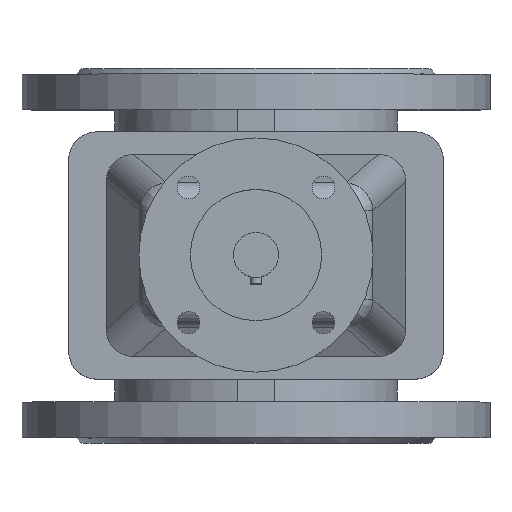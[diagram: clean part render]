
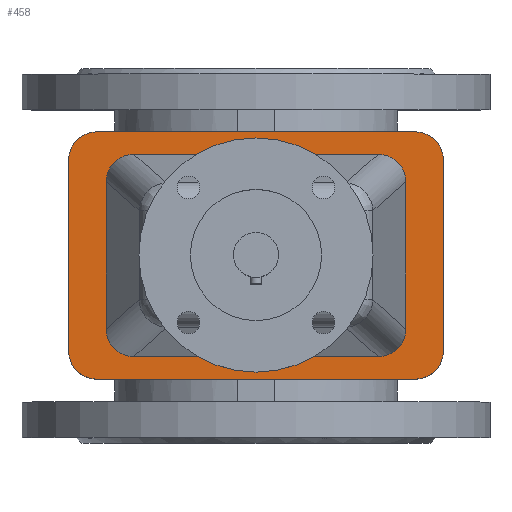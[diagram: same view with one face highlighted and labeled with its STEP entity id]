
A CAD part, top view. The second image highlights one B-rep face of the part: STEP entity #458.
In plain terms, the highlighted planar face has unit normal (0, 0, 1).
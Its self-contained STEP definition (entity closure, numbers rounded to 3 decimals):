
#458=ADVANCED_FACE('',(#1508,#1510),#1512,.T.);
#1508=FACE_BOUND('',#1509,.T.);
#1509=EDGE_LOOP('',(#2867,#2868,#2869,#2870,#2871,#2872,#2873,#2874));
#1510=FACE_BOUND('',#1511,.T.);
#1511=EDGE_LOOP('',(#2875,#2876,#2877,#2878,#2879,#2880,#2881,#2882));
#1512=PLANE('',#1513);
#1513=AXIS2_PLACEMENT_3D('',#1514,#1515,#1516);
#1514=CARTESIAN_POINT('',(0.,0.,160.));
#1515=DIRECTION('',(0.,-0.,1.));
#1516=DIRECTION('',(0.,1.,0.));
#2867=ORIENTED_EDGE('',*,*,#3406,.F.);
#2868=ORIENTED_EDGE('',*,*,#3351,.T.);
#2869=ORIENTED_EDGE('',*,*,#3349,.F.);
#2870=ORIENTED_EDGE('',*,*,#3347,.T.);
#2871=ORIENTED_EDGE('',*,*,#3345,.F.);
#2872=ORIENTED_EDGE('',*,*,#3342,.T.);
#2873=ORIENTED_EDGE('',*,*,#3405,.F.);
#2874=ORIENTED_EDGE('',*,*,#3407,.T.);
#2875=ORIENTED_EDGE('',*,*,#3408,.F.);
#2876=ORIENTED_EDGE('',*,*,#3409,.F.);
#2877=ORIENTED_EDGE('',*,*,#3410,.F.);
#2878=ORIENTED_EDGE('',*,*,#3411,.F.);
#2879=ORIENTED_EDGE('',*,*,#3412,.F.);
#2880=ORIENTED_EDGE('',*,*,#3413,.F.);
#2881=ORIENTED_EDGE('',*,*,#3414,.F.);
#2882=ORIENTED_EDGE('',*,*,#3415,.F.);
#3342=EDGE_CURVE('',#3727,#3725,#3728,.T.);
#3345=EDGE_CURVE('',#3727,#3730,#3732,.F.);
#3347=EDGE_CURVE('',#3733,#3730,#3735,.T.);
#3349=EDGE_CURVE('',#3733,#3736,#3738,.F.);
#3351=EDGE_CURVE('',#3741,#3736,#3742,.T.);
#3405=EDGE_CURVE('',#3834,#3725,#3836,.F.);
#3406=EDGE_CURVE('',#3741,#3837,#3838,.F.);
#3407=EDGE_CURVE('',#3834,#3837,#3839,.T.);
#3408=EDGE_CURVE('',#3840,#3841,#3842,.T.);
#3409=EDGE_CURVE('',#3843,#3840,#3844,.T.);
#3410=EDGE_CURVE('',#3845,#3843,#3846,.F.);
#3411=EDGE_CURVE('',#3847,#3845,#3848,.T.);
#3412=EDGE_CURVE('',#3849,#3847,#3850,.T.);
#3413=EDGE_CURVE('',#3851,#3849,#3852,.T.);
#3414=EDGE_CURVE('',#3853,#3851,#3854,.F.);
#3415=EDGE_CURVE('',#3841,#3853,#3855,.T.);
#3725=VERTEX_POINT('',#4469);
#3727=VERTEX_POINT('',#4473);
#3728=LINE('',#4474,#4475);
#3730=VERTEX_POINT('',#4480);
#3732=CIRCLE('',#4484,15.);
#3733=VERTEX_POINT('',#4488);
#3735=LINE('',#4492,#4493);
#3736=VERTEX_POINT('',#4495);
#3738=CIRCLE('',#4499,15.);
#3741=VERTEX_POINT('',#4507);
#3742=LINE('',#4508,#4509);
#3834=VERTEX_POINT('',#4731);
#3836=CIRCLE('',#4735,15.);
#3837=VERTEX_POINT('',#4739);
#3838=CIRCLE('',#4740,15.);
#3839=LINE('',#4744,#4745);
#3840=VERTEX_POINT('',#4747);
#3841=VERTEX_POINT('',#4748);
#3842=(BOUNDED_CURVE()B_SPLINE_CURVE(3,
(#4749,#4750,#4751,#4752),
.UNSPECIFIED.,.F.,.F.)B_SPLINE_CURVE_WITH_KNOTS((4,4),
(0.,1.),
.UNSPECIFIED.)CURVE()GEOMETRIC_REPRESENTATION_ITEM()RATIONAL_B_SPLINE_CURVE((1.,
0.813,0.813,1.))REPRESENTATION_ITEM(''));
#3843=VERTEX_POINT('',#4753);
#3844=LINE('',#4754,#4755);
#3845=VERTEX_POINT('',#4757);
#3846=(BOUNDED_CURVE()B_SPLINE_CURVE(3,
(#4758,#4759,#4760,#4761),
.UNSPECIFIED.,.F.,.F.)B_SPLINE_CURVE_WITH_KNOTS((4,4),
(0.,1.),
.UNSPECIFIED.)CURVE()GEOMETRIC_REPRESENTATION_ITEM()RATIONAL_B_SPLINE_CURVE((1.,
0.813,0.813,1.))REPRESENTATION_ITEM(''));
#3847=VERTEX_POINT('',#4762);
#3848=LINE('',#4763,#4764);
#3849=VERTEX_POINT('',#4766);
#3850=(BOUNDED_CURVE()B_SPLINE_CURVE(3,
(#4767,#4768,#4769,#4770),
.UNSPECIFIED.,.F.,.F.)B_SPLINE_CURVE_WITH_KNOTS((4,4),
(0.,1.),
.UNSPECIFIED.)CURVE()GEOMETRIC_REPRESENTATION_ITEM()RATIONAL_B_SPLINE_CURVE((1.,
0.813,0.813,1.))REPRESENTATION_ITEM(''));
#3851=VERTEX_POINT('',#4771);
#3852=LINE('',#4772,#4773);
#3853=VERTEX_POINT('',#4775);
#3854=(BOUNDED_CURVE()B_SPLINE_CURVE(3,
(#4776,#4777,#4778,#4779),
.UNSPECIFIED.,.F.,.F.)B_SPLINE_CURVE_WITH_KNOTS((4,4),
(0.,1.),
.UNSPECIFIED.)CURVE()GEOMETRIC_REPRESENTATION_ITEM()RATIONAL_B_SPLINE_CURVE((1.,
0.813,0.813,1.))REPRESENTATION_ITEM(''));
#3855=LINE('',#4780,#4781);
#4469=CARTESIAN_POINT('',(-85.,66.,160.));
#4473=CARTESIAN_POINT('',(85.,66.,160.));
#4474=CARTESIAN_POINT('',(85.,66.,160.));
#4475=VECTOR('',#4476,1.);
#4476=DIRECTION('',(-1.,0.,0.));
#4480=CARTESIAN_POINT('',(100.,51.,160.));
#4484=AXIS2_PLACEMENT_3D('',#4485,#4486,#4487);
#4485=CARTESIAN_POINT('',(85.,51.,160.));
#4486=DIRECTION('',(0.,-0.,1.));
#4487=DIRECTION('',(1.,0.,0.));
#4488=CARTESIAN_POINT('',(100.,-51.,160.));
#4492=CARTESIAN_POINT('',(100.,-51.,160.));
#4493=VECTOR('',#4494,1.);
#4494=DIRECTION('',(0.,1.,0.));
#4495=CARTESIAN_POINT('',(85.,-66.,160.));
#4499=AXIS2_PLACEMENT_3D('',#4500,#4501,#4502);
#4500=CARTESIAN_POINT('',(85.,-51.,160.));
#4501=DIRECTION('',(0.,-0.,1.));
#4502=DIRECTION('',(0.,-1.,0.));
#4507=CARTESIAN_POINT('',(-85.,-66.,160.));
#4508=CARTESIAN_POINT('',(-85.,-66.,160.));
#4509=VECTOR('',#4510,1.);
#4510=DIRECTION('',(1.,0.,0.));
#4731=CARTESIAN_POINT('',(-100.,51.,160.));
#4735=AXIS2_PLACEMENT_3D('',#4736,#4737,#4738);
#4736=CARTESIAN_POINT('',(-85.,51.,160.));
#4737=DIRECTION('',(0.,-0.,1.));
#4738=DIRECTION('',(0.,1.,0.));
#4739=CARTESIAN_POINT('',(-100.,-51.,160.));
#4740=AXIS2_PLACEMENT_3D('',#4741,#4742,#4743);
#4741=CARTESIAN_POINT('',(-85.,-51.,160.));
#4742=DIRECTION('',(0.,-0.,1.));
#4743=DIRECTION('',(-1.,0.,0.));
#4744=CARTESIAN_POINT('',(-100.,51.,160.));
#4745=VECTOR('',#4746,1.);
#4746=DIRECTION('',(0.,-1.,0.));
#4747=CARTESIAN_POINT('',(-65.224,54.,160.));
#4748=CARTESIAN_POINT('',(-80.,39.287,160.));
#4749=CARTESIAN_POINT('',(-65.224,54.,160.));
#4750=CARTESIAN_POINT('',(-73.939,54.,160.));
#4751=CARTESIAN_POINT('',(-80.,47.965,160.));
#4752=CARTESIAN_POINT('',(-80.,39.287,160.));
#4753=CARTESIAN_POINT('',(65.224,54.,160.));
#4754=CARTESIAN_POINT('',(65.224,54.,160.));
#4755=VECTOR('',#4756,1.);
#4756=DIRECTION('',(-1.,0.,0.));
#4757=CARTESIAN_POINT('',(80.,39.287,160.));
#4758=CARTESIAN_POINT('',(65.224,54.,160.));
#4759=CARTESIAN_POINT('',(73.939,54.,160.));
#4760=CARTESIAN_POINT('',(80.,47.965,160.));
#4761=CARTESIAN_POINT('',(80.,39.287,160.));
#4762=CARTESIAN_POINT('',(80.,-39.287,160.));
#4763=CARTESIAN_POINT('',(80.,-39.287,160.));
#4764=VECTOR('',#4765,1.);
#4765=DIRECTION('',(0.,1.,0.));
#4766=CARTESIAN_POINT('',(65.224,-54.,160.));
#4767=CARTESIAN_POINT('',(65.224,-54.,160.));
#4768=CARTESIAN_POINT('',(73.939,-54.,160.));
#4769=CARTESIAN_POINT('',(80.,-47.965,160.));
#4770=CARTESIAN_POINT('',(80.,-39.287,160.));
#4771=CARTESIAN_POINT('',(-65.224,-54.,160.));
#4772=CARTESIAN_POINT('',(-65.224,-54.,160.));
#4773=VECTOR('',#4774,1.);
#4774=DIRECTION('',(1.,0.,0.));
#4775=CARTESIAN_POINT('',(-80.,-39.287,160.));
#4776=CARTESIAN_POINT('',(-65.224,-54.,160.));
#4777=CARTESIAN_POINT('',(-73.939,-54.,160.));
#4778=CARTESIAN_POINT('',(-80.,-47.965,160.));
#4779=CARTESIAN_POINT('',(-80.,-39.287,160.));
#4780=CARTESIAN_POINT('',(-80.,39.287,160.));
#4781=VECTOR('',#4782,1.);
#4782=DIRECTION('',(0.,-1.,0.));
